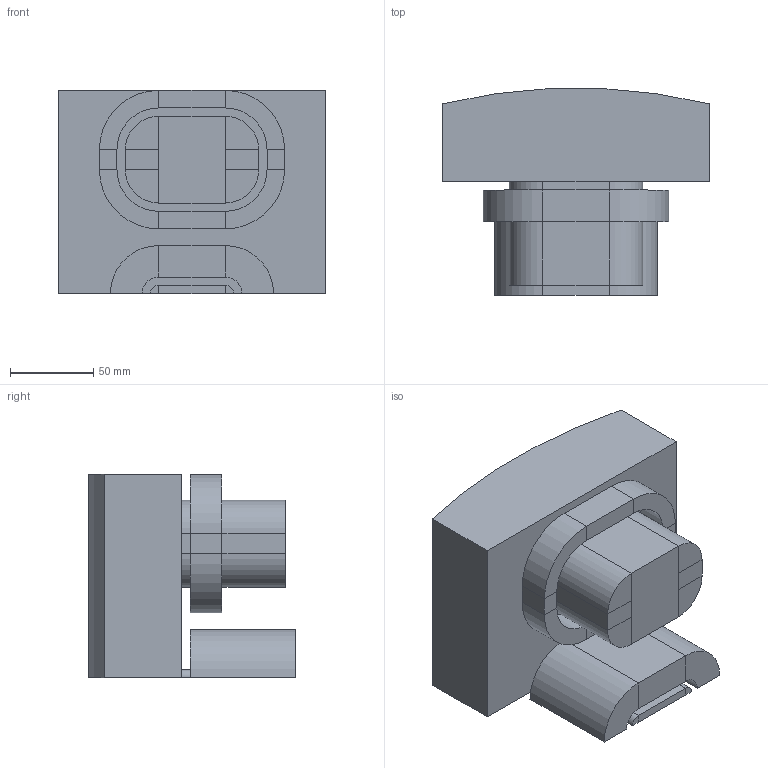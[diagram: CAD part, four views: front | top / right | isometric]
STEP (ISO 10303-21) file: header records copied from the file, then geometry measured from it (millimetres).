
FILE_DESCRIPTION(('STEP AP214'),'1');
FILE_NAME('SWLS_Sirius_Model3_step.step','2021-11-11T14:52:35',(' '),(' '),'Spatial InterOp 3D',' ',' ');
FILE_SCHEMA(('AUTOMOTIVE_DESIGN { 1 0 10303 214 1 1 1 1 }'));
Length unit declared in the file: millimetre
Products named in the file (1): Yoke
Bounding box: 160 x 123.79 x 122 mm (x, y, z)
Volume: 1466247.1 mm3; surface area: 165446.1 mm2
Topology: 22 solids, 22 shells, 126 faces, 246 edges, 164 vertices
Faces by surface type: plane 107, cylinder 19
Entity records: 3287 total; most frequent: DIRECTION 580, CARTESIAN_POINT 558, ORIENTED_EDGE 492, EDGE_CURVE 246, LINE 208, VECTOR 208, AXIS2_PLACEMENT_3D 186, VERTEX_POINT 164
